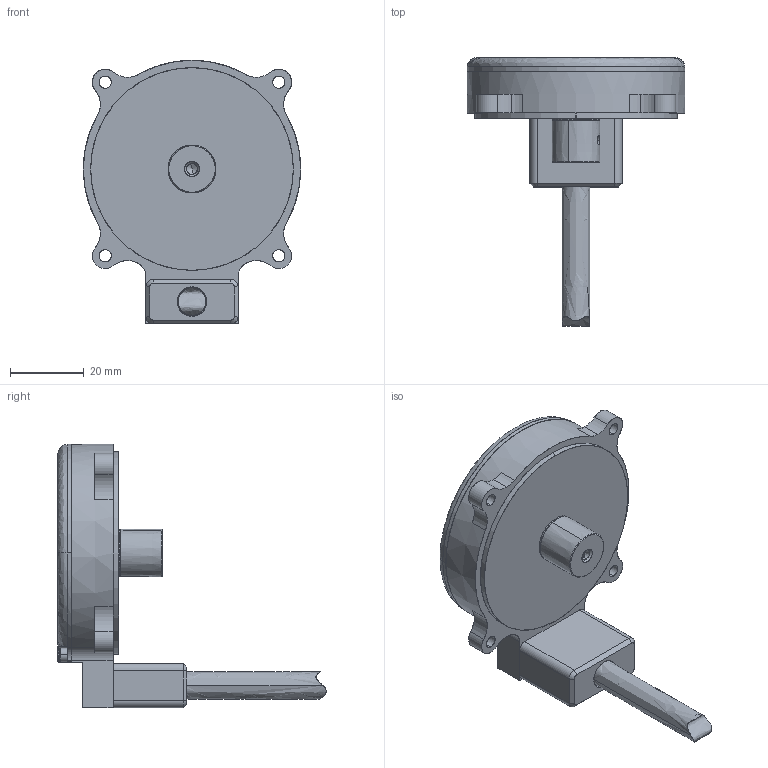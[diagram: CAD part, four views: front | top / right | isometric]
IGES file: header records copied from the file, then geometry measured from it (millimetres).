
Start section: SolidWorks IGES file using analytic representation for surfaces
Global section: file name: C:\Zettlex Data\Mechanical Drawings\1615\58mm Screw Mount 3.000mm Hub AFL1 Rev 1-0.IGS; native system: SolidWorks 2017; preprocessor: SolidWorks 2017; author: Istvan; date: 180126.104257; units: millimetre
Bounding box: 59 x 72.83 x 71.5 mm (x, y, z)
Surface area: 19587.6 mm2 (no closed solid volume)
Topology: 0 solids, 0 shells, 468 faces, 6137 edges, 6127 vertices
Faces by surface type: bspline 318, revolution 150
